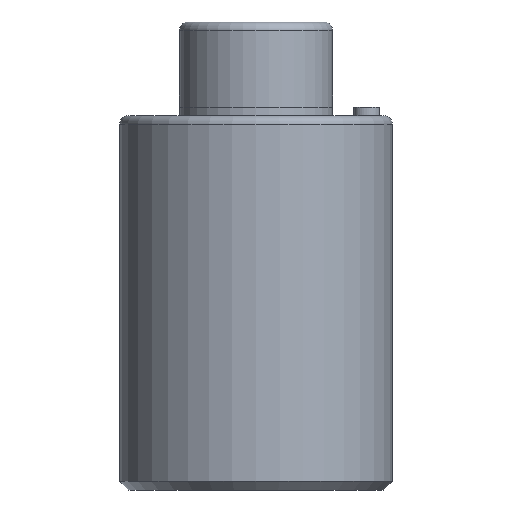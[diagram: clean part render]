
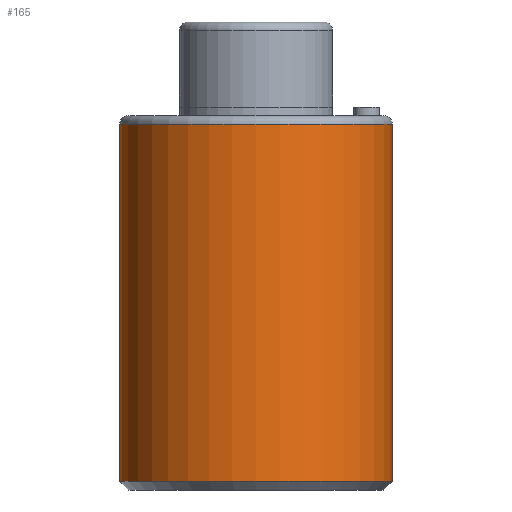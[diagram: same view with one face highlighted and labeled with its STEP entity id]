
A CAD part, front view. The second image highlights one B-rep face of the part: STEP entity #165.
In plain terms, the highlighted cylindrical face has radius 16 mm (diameter 32 mm), a partial arc.
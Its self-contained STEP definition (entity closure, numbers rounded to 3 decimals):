
#117=CYLINDRICAL_SURFACE('',#468,16.);
#129=LINE('',#673,#145);
#130=LINE('',#677,#146);
#145=VECTOR('',#554,1.);
#146=VECTOR('',#557,1.);
#165=ADVANCED_FACE('',(#194),#117,.T.);
#194=FACE_OUTER_BOUND('',#216,.T.);
#216=EDGE_LOOP('',(#269,#270,#271,#272));
#269=ORIENTED_EDGE('',*,*,#382,.T.);
#270=ORIENTED_EDGE('',*,*,#383,.F.);
#271=ORIENTED_EDGE('',*,*,#384,.F.);
#272=ORIENTED_EDGE('',*,*,#377,.T.);
#342=VERTEX_POINT('',#663);
#343=VERTEX_POINT('',#665);
#345=VERTEX_POINT('',#674);
#346=VERTEX_POINT('',#676);
#377=EDGE_CURVE('',#343,#342,#421,.T.);
#382=EDGE_CURVE('',#342,#345,#129,.T.);
#383=EDGE_CURVE('',#346,#345,#426,.T.);
#384=EDGE_CURVE('',#343,#346,#130,.T.);
#421=CIRCLE('',#460,16.);
#426=CIRCLE('',#467,16.);
#460=AXIS2_PLACEMENT_3D('',#664,#540,#541);
#467=AXIS2_PLACEMENT_3D('',#675,#555,#556);
#468=AXIS2_PLACEMENT_3D('',#678,#558,#559);
#540=DIRECTION('',(0.,0.,-1.));
#541=DIRECTION('',(0.,1.,0.));
#554=DIRECTION('',(0.,0.,-1.));
#555=DIRECTION('',(0.,0.,-1.));
#556=DIRECTION('',(0.,1.,0.));
#557=DIRECTION('',(0.,0.,-1.));
#558=DIRECTION('',(0.,0.,-1.));
#559=DIRECTION('',(0.,-1.,0.));
#663=CARTESIAN_POINT('',(-16.,0.,43.));
#664=CARTESIAN_POINT('',(0.,0.,43.));
#665=CARTESIAN_POINT('',(16.,0.,43.));
#673=CARTESIAN_POINT('',(-16.,0.,1.));
#674=CARTESIAN_POINT('',(-16.,0.,1.));
#675=CARTESIAN_POINT('',(0.,0.,1.));
#676=CARTESIAN_POINT('',(16.,0.,1.));
#677=CARTESIAN_POINT('',(16.,0.,1.));
#678=CARTESIAN_POINT('',(0.,0.,43.));
